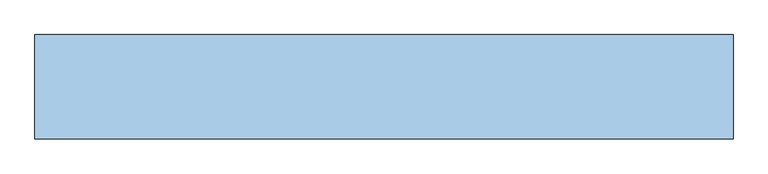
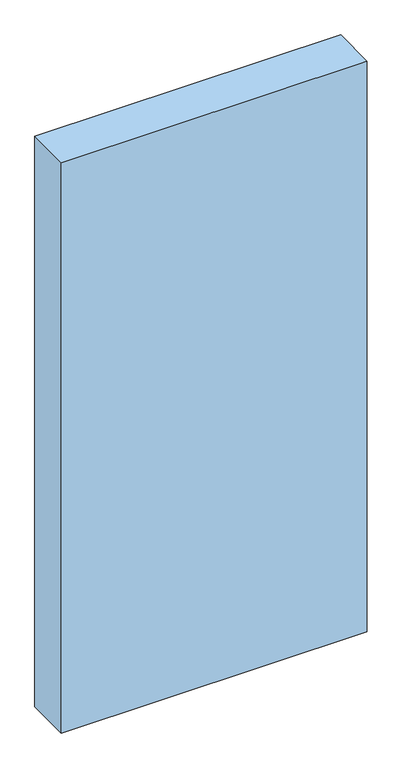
"""IFC4 building model written with IfcOpenShell, lengths in millimetres: window geometry, Dr_Проем-Четверти_об модель : ОК."""

from ifc_helpers import new_model, si_unit, frame, origin, place, context, project, spatial, polyline, outline, extrude, source, transform, mapped, element, save


def window_c5be7482(model_context):
    return source(origin(), model_context, "Body", "SweptSolid", [
        extrude(outline(polyline([(805.0, 100.0), (805.0, -100.0), (-535.0, -100.0), (-535.0, 100.0), (805.0, 100.0)])), frame((0.0, 0.0, -70.0), z_axis=(0.0, 0.0, 1.0), x_axis=(1.0, 0.0, 0.0)), (0.0, 0.0, 1.0), 2640.0),
    ])


if __name__ == "__main__":
    model = new_model("IFC4")
    model_context = context("Model", 3, world=origin())
    ifc_project = project(units=[si_unit("LENGTHUNIT", "METRE", prefix="MILLI")], contexts=[model_context])
    site = spatial("IfcSite", under=ifc_project)
    building = spatial("IfcBuilding", under=site)
    placement = place(None, origin())
    window_shape = window_c5be7482(model_context)
    element("IfcWindow", 1, ObjectType="Dr_Проем-Четверти_об модель : ОК", at=placement, inside=building, context=model_context, shape_type="MappedRepresentation", body=[
        mapped(window_shape, transform((0.0, 0.0, 0.0), x_axis=(1.0, 0.0, 0.0), y_axis=(0.0, 1.0, 0.0), z_axis=(0.0, 0.0, 1.0))),
    ])
    save(model, "model.ifc")
